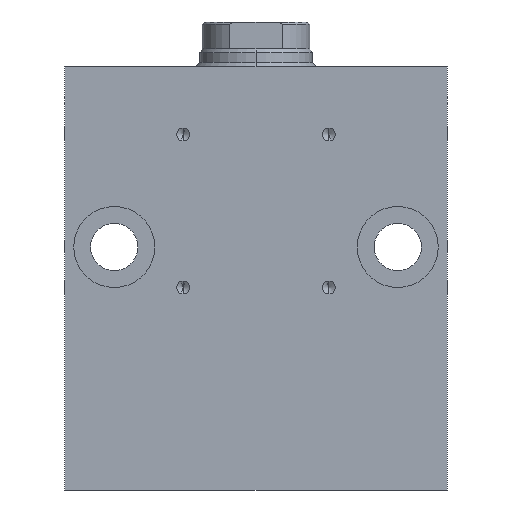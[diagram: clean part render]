
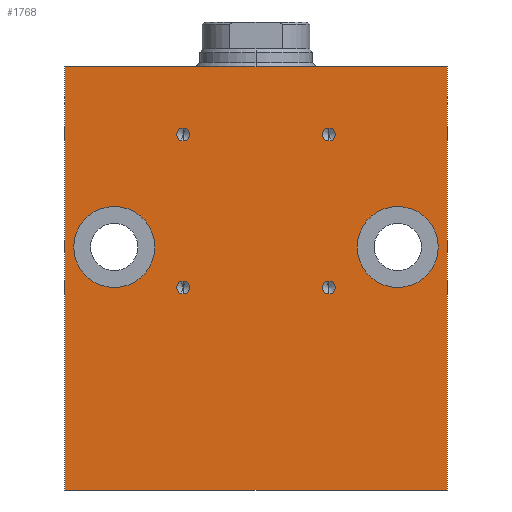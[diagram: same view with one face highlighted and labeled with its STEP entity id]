
A CAD part, left-side view. The second image highlights one B-rep face of the part: STEP entity #1768.
In plain terms, the highlighted planar face has unit normal (-1, 0, 0).
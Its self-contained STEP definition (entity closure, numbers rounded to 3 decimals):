
#22 = DIRECTION ( 'NONE',  ( 0., 0., 1. ) ) ;
#272 = CARTESIAN_POINT ( 'NONE',  ( -31.5, -16.2, -23.575 ) ) ;
#290 = FACE_BOUND ( 'NONE', #2598, .T. ) ;
#381 = EDGE_CURVE ( 'NONE', #2480, #3550, #4310, .T. ) ;
#392 = CARTESIAN_POINT ( 'NONE',  ( -31.5, 16.2, -60.425 ) ) ;
#404 = CARTESIAN_POINT ( 'NONE',  ( -31.5, 42.5, -104. ) ) ;
#417 = DIRECTION ( 'NONE',  ( -1., 0., 0. ) ) ;
#529 = DIRECTION ( 'NONE',  ( -1., 0., 0. ) ) ;
#575 = AXIS2_PLACEMENT_3D ( 'NONE', #404, #1785, #3314 ) ;
#579 = DIRECTION ( 'NONE',  ( 0., 0., 1. ) ) ;
#670 = ORIENTED_EDGE ( 'NONE', *, *, #2566, .F. ) ;
#688 = CIRCLE ( 'NONE', #1312, 1.425 ) ;
#709 = VERTEX_POINT ( 'NONE', #2120 ) ;
#727 = CIRCLE ( 'NONE', #3113, 1.425 ) ;
#758 = PLANE ( 'NONE',  #575 ) ;
#759 = VECTOR ( 'NONE', #3251, 1000. ) ;
#768 = CARTESIAN_POINT ( 'NONE',  ( -31.5, 31.5, -59. ) ) ;
#780 = CARTESIAN_POINT ( 'NONE',  ( -31.5, -42.5, -10. ) ) ;
#874 = CIRCLE ( 'NONE', #1910, 9. ) ;
#895 = AXIS2_PLACEMENT_3D ( 'NONE', #2058, #4697, #579 ) ;
#911 = EDGE_CURVE ( 'NONE', #2358, #1933, #2778, .T. ) ;
#971 = CARTESIAN_POINT ( 'NONE',  ( -31.5, 42.5, -104. ) ) ;
#1035 = CARTESIAN_POINT ( 'NONE',  ( -31.5, 16.2, -59. ) ) ;
#1070 = ORIENTED_EDGE ( 'NONE', *, *, #2529, .F. ) ;
#1071 = AXIS2_PLACEMENT_3D ( 'NONE', #3521, #1599, #1621 ) ;
#1261 = DIRECTION ( 'NONE',  ( 0., 0., 1. ) ) ;
#1303 = AXIS2_PLACEMENT_3D ( 'NONE', #4502, #3359, #1391 ) ;
#1308 = CIRCLE ( 'NONE', #4312, 1.425 ) ;
#1312 = AXIS2_PLACEMENT_3D ( 'NONE', #1035, #1485, #4063 ) ;
#1373 = VERTEX_POINT ( 'NONE', #4457 ) ;
#1391 = DIRECTION ( 'NONE',  ( 0., 0., -1. ) ) ;
#1448 = VERTEX_POINT ( 'NONE', #3851 ) ;
#1485 = DIRECTION ( 'NONE',  ( -1., 0., 0. ) ) ;
#1503 = ORIENTED_EDGE ( 'NONE', *, *, #3138, .F. ) ;
#1522 = DIRECTION ( 'NONE',  ( -1., 0., 0. ) ) ;
#1543 = VERTEX_POINT ( 'NONE', #3502 ) ;
#1575 = CARTESIAN_POINT ( 'NONE',  ( -31.5, -16.2, -59. ) ) ;
#1586 = EDGE_CURVE ( 'NONE', #1448, #2633, #727, .T. ) ;
#1599 = DIRECTION ( 'NONE',  ( -1., 0., 0. ) ) ;
#1621 = DIRECTION ( 'NONE',  ( 0., 0., -1. ) ) ;
#1631 = CARTESIAN_POINT ( 'NONE',  ( -31.5, -31.5, -59. ) ) ;
#1633 = EDGE_CURVE ( 'NONE', #1543, #4156, #874, .T. ) ;
#1658 = LINE ( 'NONE', #3190, #2899 ) ;
#1711 = AXIS2_PLACEMENT_3D ( 'NONE', #2270, #417, #3051 ) ;
#1719 = CARTESIAN_POINT ( 'NONE',  ( -31.5, 42.5, -104. ) ) ;
#1768 = ADVANCED_FACE ( 'NONE', ( #1923, #2931, #3813, #3768, #290, #3399, #4197 ), #758, .T. ) ;
#1785 = DIRECTION ( 'NONE',  ( -1., 0., 0. ) ) ;
#1846 = ORIENTED_EDGE ( 'NONE', *, *, #1889, .T. ) ;
#1889 = EDGE_CURVE ( 'NONE', #1373, #2312, #3516, .T. ) ;
#1910 = AXIS2_PLACEMENT_3D ( 'NONE', #3211, #4694, #2856 ) ;
#1923 = FACE_BOUND ( 'NONE', #3182, .T. ) ;
#1933 = VERTEX_POINT ( 'NONE', #4684 ) ;
#1938 = AXIS2_PLACEMENT_3D ( 'NONE', #2273, #1522, #3789 ) ;
#1944 = DIRECTION ( 'NONE',  ( 0., -1., 0. ) ) ;
#1976 = ORIENTED_EDGE ( 'NONE', *, *, #1633, .F. ) ;
#2021 = AXIS2_PLACEMENT_3D ( 'NONE', #3358, #3676, #22 ) ;
#2058 = CARTESIAN_POINT ( 'NONE',  ( -31.5, 16.2, -25. ) ) ;
#2091 = LINE ( 'NONE', #1719, #759 ) ;
#2108 = CARTESIAN_POINT ( 'NONE',  ( -31.5, -16.2, -25. ) ) ;
#2119 = VERTEX_POINT ( 'NONE', #971 ) ;
#2120 = CARTESIAN_POINT ( 'NONE',  ( -31.5, 16.2, -26.425 ) ) ;
#2137 = ORIENTED_EDGE ( 'NONE', *, *, #3310, .F. ) ;
#2200 = EDGE_CURVE ( 'NONE', #2119, #1373, #2091, .T. ) ;
#2207 = EDGE_LOOP ( 'NONE', ( #1976, #2137 ) ) ;
#2241 = DIRECTION ( 'NONE',  ( -1., 0., 0. ) ) ;
#2257 = EDGE_CURVE ( 'NONE', #2633, #1448, #2433, .T. ) ;
#2269 = ORIENTED_EDGE ( 'NONE', *, *, #1586, .F. ) ;
#2270 = CARTESIAN_POINT ( 'NONE',  ( -31.5, -16.2, -25. ) ) ;
#2273 = CARTESIAN_POINT ( 'NONE',  ( -31.5, -31.5, -50. ) ) ;
#2284 = DIRECTION ( 'NONE',  ( -1., 0., 0. ) ) ;
#2312 = VERTEX_POINT ( 'NONE', #780 ) ;
#2342 = CIRCLE ( 'NONE', #2021, 1.425 ) ;
#2358 = VERTEX_POINT ( 'NONE', #4562 ) ;
#2404 = EDGE_LOOP ( 'NONE', ( #1503, #2513 ) ) ;
#2433 = CIRCLE ( 'NONE', #1711, 1.425 ) ;
#2477 = VECTOR ( 'NONE', #3100, 1000. ) ;
#2480 = VERTEX_POINT ( 'NONE', #1631 ) ;
#2513 = ORIENTED_EDGE ( 'NONE', *, *, #3293, .F. ) ;
#2529 = EDGE_CURVE ( 'NONE', #4755, #2312, #1658, .T. ) ;
#2566 = EDGE_CURVE ( 'NONE', #2119, #4755, #3655, .T. ) ;
#2598 = EDGE_LOOP ( 'NONE', ( #4112, #2800 ) ) ;
#2633 = VERTEX_POINT ( 'NONE', #272 ) ;
#2701 = DIRECTION ( 'NONE',  ( 0., 0., 1. ) ) ;
#2758 = CARTESIAN_POINT ( 'NONE',  ( -31.5, -31.5, -41. ) ) ;
#2778 = CIRCLE ( 'NONE', #3419, 1.425 ) ;
#2790 = CARTESIAN_POINT ( 'NONE',  ( -31.5, 42.5, -10. ) ) ;
#2800 = ORIENTED_EDGE ( 'NONE', *, *, #381, .F. ) ;
#2801 = VERTEX_POINT ( 'NONE', #392 ) ;
#2805 = DIRECTION ( 'NONE',  ( -1., 0., 0. ) ) ;
#2856 = DIRECTION ( 'NONE',  ( 0., 0., -1. ) ) ;
#2899 = VECTOR ( 'NONE', #1944, 1000. ) ;
#2900 = CIRCLE ( 'NONE', #3304, 1.425 ) ;
#2931 = FACE_BOUND ( 'NONE', #4643, .T. ) ;
#2962 = EDGE_LOOP ( 'NONE', ( #1070, #670, #4434, #1846 ) ) ;
#3051 = DIRECTION ( 'NONE',  ( 0., 0., 1. ) ) ;
#3100 = DIRECTION ( 'NONE',  ( 0., 0., 1. ) ) ;
#3113 = AXIS2_PLACEMENT_3D ( 'NONE', #2108, #529, #1261 ) ;
#3138 = EDGE_CURVE ( 'NONE', #4783, #2801, #2342, .T. ) ;
#3160 = ORIENTED_EDGE ( 'NONE', *, *, #2257, .F. ) ;
#3174 = CARTESIAN_POINT ( 'NONE',  ( -31.5, 16.2, -57.575 ) ) ;
#3182 = EDGE_LOOP ( 'NONE', ( #4158, #3610 ) ) ;
#3190 = CARTESIAN_POINT ( 'NONE',  ( -31.5, 42.5, -10. ) ) ;
#3211 = CARTESIAN_POINT ( 'NONE',  ( -31.5, 31.5, -50. ) ) ;
#3229 = CIRCLE ( 'NONE', #1071, 9. ) ;
#3251 = DIRECTION ( 'NONE',  ( 0., -1., 0. ) ) ;
#3269 = ORIENTED_EDGE ( 'NONE', *, *, #4176, .F. ) ;
#3291 = CARTESIAN_POINT ( 'NONE',  ( -31.5, 42.5, -104. ) ) ;
#3293 = EDGE_CURVE ( 'NONE', #2801, #4783, #688, .T. ) ;
#3304 = AXIS2_PLACEMENT_3D ( 'NONE', #4743, #2805, #4673 ) ;
#3310 = EDGE_CURVE ( 'NONE', #4156, #1543, #3229, .T. ) ;
#3314 = DIRECTION ( 'NONE',  ( 0., 0., 1. ) ) ;
#3358 = CARTESIAN_POINT ( 'NONE',  ( -31.5, 16.2, -59. ) ) ;
#3359 = DIRECTION ( 'NONE',  ( -1., 0., 0. ) ) ;
#3378 = CIRCLE ( 'NONE', #895, 1.425 ) ;
#3399 = FACE_BOUND ( 'NONE', #2207, .T. ) ;
#3419 = AXIS2_PLACEMENT_3D ( 'NONE', #4170, #2241, #4507 ) ;
#3502 = CARTESIAN_POINT ( 'NONE',  ( -31.5, 31.5, -41. ) ) ;
#3516 = LINE ( 'NONE', #4657, #2477 ) ;
#3521 = CARTESIAN_POINT ( 'NONE',  ( -31.5, 31.5, -50. ) ) ;
#3550 = VERTEX_POINT ( 'NONE', #2758 ) ;
#3563 = CARTESIAN_POINT ( 'NONE',  ( -31.5, 16.2, -23.575 ) ) ;
#3610 = ORIENTED_EDGE ( 'NONE', *, *, #3746, .F. ) ;
#3655 = LINE ( 'NONE', #3291, #4543 ) ;
#3676 = DIRECTION ( 'NONE',  ( -1., 0., 0. ) ) ;
#3746 = EDGE_CURVE ( 'NONE', #709, #4781, #2900, .T. ) ;
#3768 = FACE_BOUND ( 'NONE', #2404, .T. ) ;
#3789 = DIRECTION ( 'NONE',  ( 0., 0., -1. ) ) ;
#3798 = EDGE_CURVE ( 'NONE', #4781, #709, #3378, .T. ) ;
#3813 = FACE_BOUND ( 'NONE', #4574, .T. ) ;
#3851 = CARTESIAN_POINT ( 'NONE',  ( -31.5, -16.2, -26.425 ) ) ;
#4014 = EDGE_CURVE ( 'NONE', #3550, #2480, #4546, .T. ) ;
#4063 = DIRECTION ( 'NONE',  ( 0., 0., 1. ) ) ;
#4112 = ORIENTED_EDGE ( 'NONE', *, *, #4014, .F. ) ;
#4156 = VERTEX_POINT ( 'NONE', #768 ) ;
#4158 = ORIENTED_EDGE ( 'NONE', *, *, #3798, .F. ) ;
#4170 = CARTESIAN_POINT ( 'NONE',  ( -31.5, -16.2, -59. ) ) ;
#4176 = EDGE_CURVE ( 'NONE', #1933, #2358, #1308, .T. ) ;
#4197 = FACE_OUTER_BOUND ( 'NONE', #2962, .T. ) ;
#4310 = CIRCLE ( 'NONE', #1938, 9. ) ;
#4312 = AXIS2_PLACEMENT_3D ( 'NONE', #1575, #2284, #2701 ) ;
#4434 = ORIENTED_EDGE ( 'NONE', *, *, #2200, .T. ) ;
#4457 = CARTESIAN_POINT ( 'NONE',  ( -31.5, -42.5, -104. ) ) ;
#4502 = CARTESIAN_POINT ( 'NONE',  ( -31.5, -31.5, -50. ) ) ;
#4507 = DIRECTION ( 'NONE',  ( 0., 0., 1. ) ) ;
#4543 = VECTOR ( 'NONE', #4750, 1000. ) ;
#4546 = CIRCLE ( 'NONE', #1303, 9. ) ;
#4562 = CARTESIAN_POINT ( 'NONE',  ( -31.5, -16.2, -60.425 ) ) ;
#4574 = EDGE_LOOP ( 'NONE', ( #3269, #4825 ) ) ;
#4643 = EDGE_LOOP ( 'NONE', ( #3160, #2269 ) ) ;
#4657 = CARTESIAN_POINT ( 'NONE',  ( -31.5, -42.5, -104. ) ) ;
#4673 = DIRECTION ( 'NONE',  ( 0., 0., 1. ) ) ;
#4684 = CARTESIAN_POINT ( 'NONE',  ( -31.5, -16.2, -57.575 ) ) ;
#4694 = DIRECTION ( 'NONE',  ( -1., 0., 0. ) ) ;
#4697 = DIRECTION ( 'NONE',  ( -1., 0., 0. ) ) ;
#4743 = CARTESIAN_POINT ( 'NONE',  ( -31.5, 16.2, -25. ) ) ;
#4750 = DIRECTION ( 'NONE',  ( 0., 0., 1. ) ) ;
#4755 = VERTEX_POINT ( 'NONE', #2790 ) ;
#4781 = VERTEX_POINT ( 'NONE', #3563 ) ;
#4783 = VERTEX_POINT ( 'NONE', #3174 ) ;
#4825 = ORIENTED_EDGE ( 'NONE', *, *, #911, .F. ) ;
